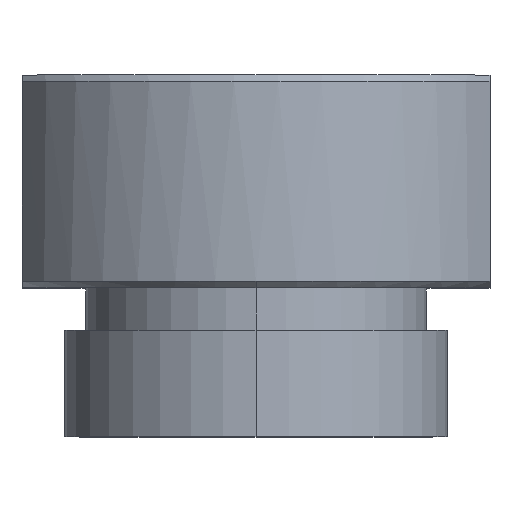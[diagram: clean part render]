
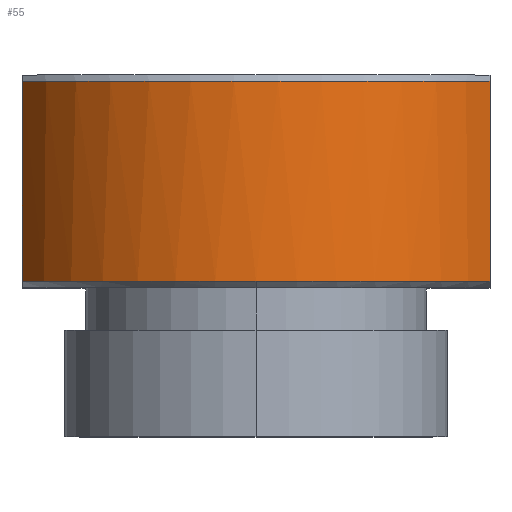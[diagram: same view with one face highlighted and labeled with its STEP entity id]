
A CAD part, top view. The second image highlights one B-rep face of the part: STEP entity #55.
In plain terms, the highlighted cylindrical face has radius 12.5 mm (diameter 25 mm), a partial arc.
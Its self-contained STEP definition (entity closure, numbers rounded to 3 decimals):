
#40 = CARTESIAN_POINT ( 'NONE',  ( 0., 9.7, 0. ) ) ;
#55 = ADVANCED_FACE ( 'NONE', ( #885 ), #374, .T. ) ;
#56 = ORIENTED_EDGE ( 'NONE', *, *, #155, .T. ) ;
#57 = ORIENTED_EDGE ( 'NONE', *, *, #801, .F. ) ;
#76 = DIRECTION ( 'NONE',  ( 0., 0., 1. ) ) ;
#98 = VERTEX_POINT ( 'NONE', #517 ) ;
#109 = ORIENTED_EDGE ( 'NONE', *, *, #341, .T. ) ;
#122 = ORIENTED_EDGE ( 'NONE', *, *, #281, .F. ) ;
#132 = DIRECTION ( 'NONE',  ( 0., 0., 1. ) ) ;
#155 = EDGE_CURVE ( 'NONE', #98, #664, #261, .T. ) ;
#183 = LINE ( 'NONE', #737, #389 ) ;
#193 = LINE ( 'NONE', #786, #654 ) ;
#212 = DIRECTION ( 'NONE',  ( 0., -1., 0. ) ) ;
#261 = CIRCLE ( 'NONE', #864, 12.5 ) ;
#272 = VERTEX_POINT ( 'NONE', #752 ) ;
#275 = ORIENTED_EDGE ( 'NONE', *, *, #778, .T. ) ;
#281 = EDGE_CURVE ( 'NONE', #462, #664, #183, .T. ) ;
#295 = CARTESIAN_POINT ( 'NONE',  ( 0., 10., 0. ) ) ;
#341 = EDGE_CURVE ( 'NONE', #272, #98, #647, .T. ) ;
#361 = DIRECTION ( 'NONE',  ( 0., -1., 0. ) ) ;
#374 = CYLINDRICAL_SURFACE ( 'NONE', #890, 12.5 ) ;
#389 = VECTOR ( 'NONE', #212, 1000. ) ;
#415 = DIRECTION ( 'NONE',  ( 0., 0., 1. ) ) ;
#420 = VERTEX_POINT ( 'NONE', #819 ) ;
#462 = VERTEX_POINT ( 'NONE', #680 ) ;
#517 = CARTESIAN_POINT ( 'NONE',  ( 0., 0.3, 12.5 ) ) ;
#547 = EDGE_LOOP ( 'NONE', ( #57, #109, #56, #122, #275 ) ) ;
#647 = CIRCLE ( 'NONE', #719, 12.5 ) ;
#654 = VECTOR ( 'NONE', #932, 1000. ) ;
#664 = VERTEX_POINT ( 'NONE', #769 ) ;
#673 = CARTESIAN_POINT ( 'NONE',  ( 0., 0.3, 0. ) ) ;
#675 = DIRECTION ( 'NONE',  ( 0., 0., -1. ) ) ;
#680 = CARTESIAN_POINT ( 'NONE',  ( 11., 9.7, 5.937 ) ) ;
#699 = AXIS2_PLACEMENT_3D ( 'NONE', #40, #714, #415 ) ;
#714 = DIRECTION ( 'NONE',  ( 0., -1., 0. ) ) ;
#719 = AXIS2_PLACEMENT_3D ( 'NONE', #803, #799, #132 ) ;
#737 = CARTESIAN_POINT ( 'NONE',  ( 11., 10., 5.937 ) ) ;
#752 = CARTESIAN_POINT ( 'NONE',  ( -11., 0.3, 5.937 ) ) ;
#769 = CARTESIAN_POINT ( 'NONE',  ( 11., 0.3, 5.937 ) ) ;
#778 = EDGE_CURVE ( 'NONE', #462, #420, #841, .T. ) ;
#786 = CARTESIAN_POINT ( 'NONE',  ( -11., 10., 5.937 ) ) ;
#799 = DIRECTION ( 'NONE',  ( 0., 1., 0. ) ) ;
#801 = EDGE_CURVE ( 'NONE', #272, #420, #193, .T. ) ;
#803 = CARTESIAN_POINT ( 'NONE',  ( 0., 0.3, 0. ) ) ;
#819 = CARTESIAN_POINT ( 'NONE',  ( -11., 9.7, 5.937 ) ) ;
#841 = CIRCLE ( 'NONE', #699, 12.5 ) ;
#864 = AXIS2_PLACEMENT_3D ( 'NONE', #673, #886, #76 ) ;
#885 = FACE_OUTER_BOUND ( 'NONE', #547, .T. ) ;
#886 = DIRECTION ( 'NONE',  ( 0., 1., 0. ) ) ;
#890 = AXIS2_PLACEMENT_3D ( 'NONE', #295, #361, #675 ) ;
#932 = DIRECTION ( 'NONE',  ( 0., 1., 0. ) ) ;
